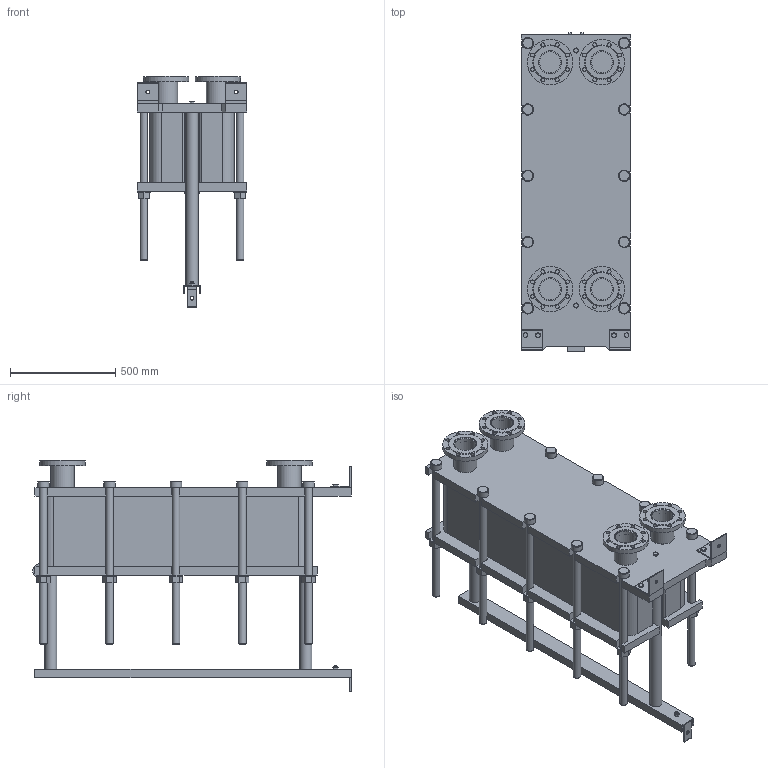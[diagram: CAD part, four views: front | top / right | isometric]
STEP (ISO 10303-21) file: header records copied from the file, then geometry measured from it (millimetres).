
FILE_DESCRIPTION(/* description */ (''),/* implementation_level */ '2;1');
FILE_NAME(/* name */ 'C:\Users\zhuro\Desktop\ENCO\TO\ЭН-04\ЭН-0,5-04-97-1.stp',/* time_stamp */ '2022-06-06T10:53:38+03:00',/* author */ ('zhuro'),/* organization */ (''),/* preprocessor_version */ 'ST-DEVELOPER v18.1',/* originating_system */ 'Autodesk Inventor 2022',/* authorisation */ '');
FILE_SCHEMA (('AUTOMOTIVE_DESIGN { 1 0 10303 214 3 1 1 }'));
Length unit declared in the file: millimetre
Products named in the file (1): ЭН-0,5-04-97-1
Bounding box: 520 x 1510 x 1098.5 mm (x, y, z)
Volume: 238287722.2 mm3; surface area: 8289291.7 mm2
Topology: 45 solids, 45 shells, 668 faces, 1611 edges, 1048 vertices
Faces by surface type: plane 457, cylinder 166, cone 39, torus 6
Full cylindrical faces by diameter (mm): 8 x4, 10 x2, 16 x8, 18 x35, 36 x25, 40 x2, 42 x1, 45 x4, 54 x10, 57 x2, 60 x10, 68 x2, 100 x4, 110 x8, 215 x4
Entity records: 23607 total; most frequent: CARTESIAN_POINT 7348, DIRECTION 3371, ORIENTED_EDGE 3142, EDGE_CURVE 1571, AXIS2_PLACEMENT_3D 1199, VERTEX_POINT 1044, LINE 973, VECTOR 973
